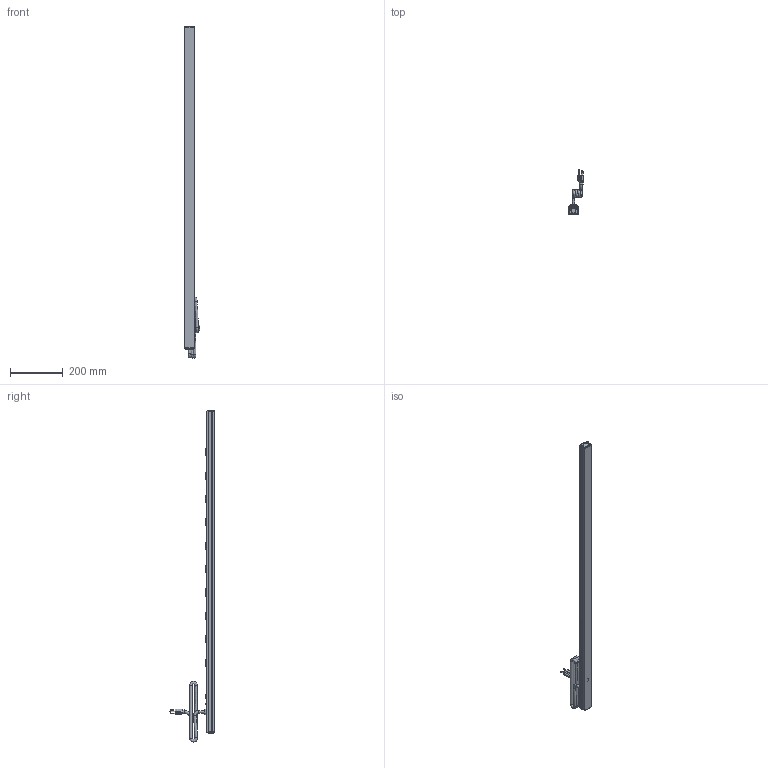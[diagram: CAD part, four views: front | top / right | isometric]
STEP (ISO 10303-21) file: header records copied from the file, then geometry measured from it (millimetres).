
FILE_DESCRIPTION((''),'2;1');
FILE_NAME('E:\Dutton\Manufacturing\drawings\Updated 2009\Vertical Rack Mount Strips\1585 T series\STEP''s\1585H10A1.stp','2010-01-18T13:10:35',('tfoster'),(''),'Autodesk Inventor 2010','Autodesk Inventor 2010','');
FILE_SCHEMA(('AUTOMOTIVE_DESIGN { 1 0 10303 214 1 1 1 1 }'));
Products named in the file (14): 1585H10A1; 1585H10 top; 1585 bottom; End Cap; End Cap w breaker; Reset Switch; #6 - 0.375 Type A screw; Cored 2; toothwasher; round head 1-way 8-32 x 0.5 screw; Power Switch Assembly; Power Switch; Power Switch pt; Receptacle
Assembly tree (25 placements, depth 3):
  1585H10A1
    1585H10 top
    1585 bottom
    End Cap
    End Cap w breaker
    Reset Switch
    #6 - 0.375 Type A screw  x4
    Cored 2
    toothwasher
    round head 1-way 8-32 x 0.5 screw
    Power Switch Assembly
      Power Switch
      Power Switch pt
    Receptacle  x10
Bounding box: 60.19 x 170.82 x 1262.78 mm (x, y, z)
Volume: 525014.1 mm3; surface area: 486218 mm2
Topology: 24 solids, 24 shells, 1229 faces, 3498 edges, 2307 vertices
Faces by surface type: plane 736, cylinder 266, bspline 139, sphere 46, cone 27, torus 15
Full cylindrical faces by diameter (mm): 1 x2, 1.803 x3, 1.905 x2, 3 x2, 3.175 x12, 4.3 x1, 4.775 x1, 4.826 x1, 7.849 x1, 9.5 x5, 11 x1, 15.621 x1, 19.05 x2
Entity records: 27633 total; most frequent: CARTESIAN_POINT 9778, ORIENTED_EDGE 3860, DIRECTION 3201, EDGE_CURVE 1930, VERTEX_POINT 1360, VECTOR 1129, LINE 1129, AXIS2_PLACEMENT_3D 1036
